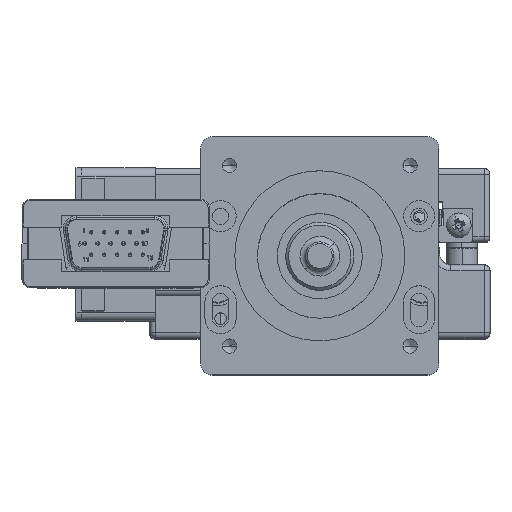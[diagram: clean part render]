
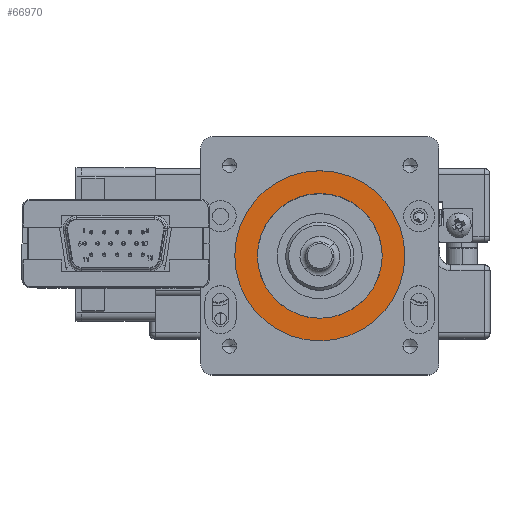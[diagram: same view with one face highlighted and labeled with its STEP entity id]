
A CAD part, top view. The second image highlights one B-rep face of the part: STEP entity #66970.
In plain terms, the highlighted planar face has unit normal (0, 0, 1).
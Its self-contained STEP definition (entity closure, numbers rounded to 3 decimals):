
#427 = EDGE_LOOP ( 'NONE', ( #43752, #50574 ) ) ;
#1128 = CARTESIAN_POINT ( 'NONE',  ( 0., 0., 36.5 ) ) ;
#1967 = EDGE_CURVE ( 'NONE', #10045, #7297, #56646, .T. ) ;
#7221 = AXIS2_PLACEMENT_3D ( 'NONE', #62484, #19785, #68052 ) ;
#7297 = VERTEX_POINT ( 'NONE', #21701 ) ;
#8317 = DIRECTION ( 'NONE',  ( 0., 0., 1. ) ) ;
#9803 = CIRCLE ( 'NONE', #7221, 11. ) ;
#10045 = VERTEX_POINT ( 'NONE', #14977 ) ;
#13110 = DIRECTION ( 'NONE',  ( 1., 0., 0. ) ) ;
#13956 = DIRECTION ( 'NONE',  ( 0., 0., 1. ) ) ;
#14977 = CARTESIAN_POINT ( 'NONE',  ( -15., 0., 36.5 ) ) ;
#17115 = DIRECTION ( 'NONE',  ( 1., 0., 0. ) ) ;
#17181 = AXIS2_PLACEMENT_3D ( 'NONE', #38671, #13956, #44665 ) ;
#19785 = DIRECTION ( 'NONE',  ( 0., 0., -1. ) ) ;
#21701 = CARTESIAN_POINT ( 'NONE',  ( 15., 0., 36.5 ) ) ;
#23833 = EDGE_CURVE ( 'NONE', #57813, #53225, #9803, .T. ) ;
#24304 = CARTESIAN_POINT ( 'NONE',  ( -11., 0., 36.5 ) ) ;
#31019 = EDGE_LOOP ( 'NONE', ( #44028, #65086 ) ) ;
#31066 = CARTESIAN_POINT ( 'NONE',  ( 0., 0., 36.5 ) ) ;
#31468 = DIRECTION ( 'NONE',  ( 0., 0., 1. ) ) ;
#31869 = FACE_OUTER_BOUND ( 'NONE', #31019, .T. ) ;
#37084 = CARTESIAN_POINT ( 'NONE',  ( 11., 0., 36.5 ) ) ;
#38671 = CARTESIAN_POINT ( 'NONE',  ( 0., 0., 36.5 ) ) ;
#43736 = AXIS2_PLACEMENT_3D ( 'NONE', #31066, #31468, #13110 ) ;
#43752 = ORIENTED_EDGE ( 'NONE', *, *, #68220, .T. ) ;
#44028 = ORIENTED_EDGE ( 'NONE', *, *, #77475, .T. ) ;
#44665 = DIRECTION ( 'NONE',  ( 1., 0., 0. ) ) ;
#46332 = CIRCLE ( 'NONE', #74535, 15. ) ;
#46482 = AXIS2_PLACEMENT_3D ( 'NONE', #60192, #47439, #17115 ) ;
#47439 = DIRECTION ( 'NONE',  ( 0., 0., -1. ) ) ;
#49810 = FACE_BOUND ( 'NONE', #427, .T. ) ;
#50574 = ORIENTED_EDGE ( 'NONE', *, *, #23833, .T. ) ;
#53225 = VERTEX_POINT ( 'NONE', #37084 ) ;
#56646 = CIRCLE ( 'NONE', #17181, 15. ) ;
#57813 = VERTEX_POINT ( 'NONE', #24304 ) ;
#60192 = CARTESIAN_POINT ( 'NONE',  ( 0., 0., 36.5 ) ) ;
#61774 = PLANE ( 'NONE',  #43736 ) ;
#62170 = DIRECTION ( 'NONE',  ( 1., 0., 0. ) ) ;
#62484 = CARTESIAN_POINT ( 'NONE',  ( 0., 0., 36.5 ) ) ;
#65086 = ORIENTED_EDGE ( 'NONE', *, *, #1967, .T. ) ;
#66970 = ADVANCED_FACE ( 'NONE', ( #31869, #49810 ), #61774, .T. ) ;
#68052 = DIRECTION ( 'NONE',  ( 1., 0., 0. ) ) ;
#68220 = EDGE_CURVE ( 'NONE', #53225, #57813, #71933, .T. ) ;
#71933 = CIRCLE ( 'NONE', #46482, 11. ) ;
#74535 = AXIS2_PLACEMENT_3D ( 'NONE', #1128, #8317, #62170 ) ;
#77475 = EDGE_CURVE ( 'NONE', #7297, #10045, #46332, .T. ) ;
